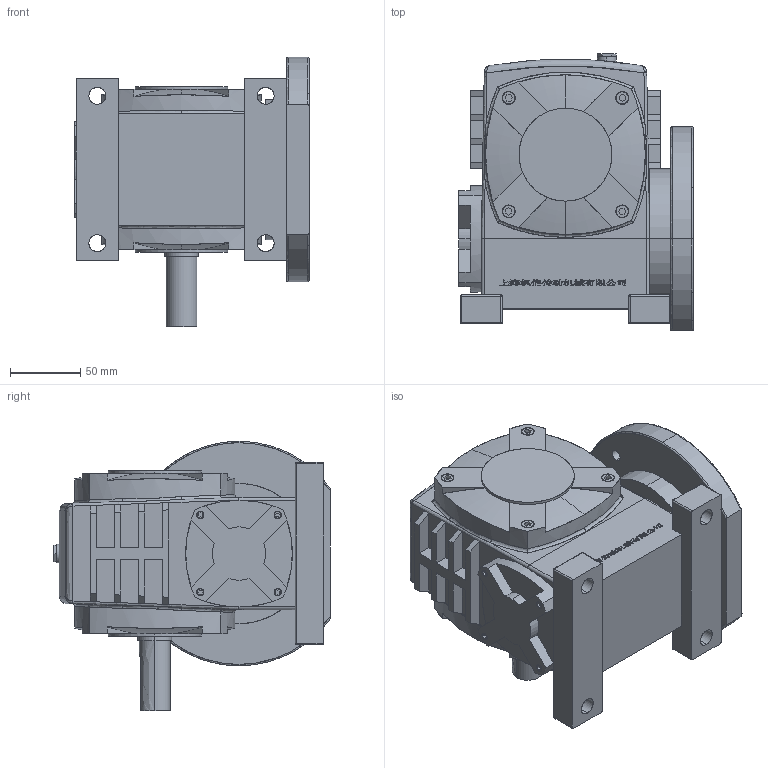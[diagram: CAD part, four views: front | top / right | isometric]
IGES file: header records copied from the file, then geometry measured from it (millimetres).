
Start section: SolidWorks IGES file using analytic representation for surfaces
Global section: file name: F:\3D芞祧\眒俇傖\WPDA60.IGS; native system: SolidWorks 2014; preprocessor: SolidWorks 2014; author: xing; date: 161023.113103; units: millimetre
Bounding box: 167 x 197 x 192 mm (x, y, z)
Surface area: 206296.2 mm2 (no closed solid volume)
Topology: 0 solids, 0 shells, 1153 faces, 12269 edges, 12261 vertices
Faces by surface type: bspline 952, revolution 201
